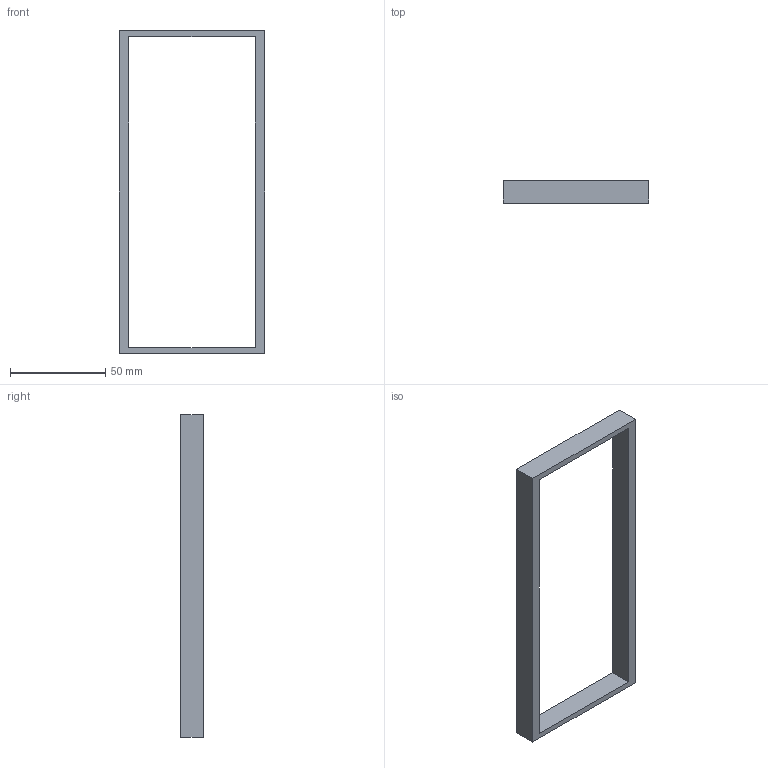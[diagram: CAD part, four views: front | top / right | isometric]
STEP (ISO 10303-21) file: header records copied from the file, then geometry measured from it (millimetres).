
FILE_DESCRIPTION(('FreeCAD Model'),'2;1');
FILE_NAME('Open CASCADE Shape Model','2026-09-11T23:31:28',('FreeCAD'),( 'FreeCAD'),'Open CASCADE STEP processor 7.8','FreeCAD','Unknown');
FILE_SCHEMA(('AUTOMOTIVE_DESIGN { 1 0 10303 214 1 1 1 1 }'));
Length unit declared in the file: millimetre
Products named in the file (1): Open CASCADE STEP translator 7.8 14
Bounding box: 76.4 x 12 x 169.8 mm (x, y, z)
Volume: 25316.2 mm3; surface area: 15648.2 mm2
Topology: 1 solids, 1 shells, 10 faces, 24 edges, 16 vertices
Faces by surface type: plane 10
Entity records: 302 total; most frequent: CARTESIAN_POINT 51, ORIENTED_EDGE 48, DIRECTION 46, EDGE_CURVE 24, LINE 24, VECTOR 24, VERTEX_POINT 16, FACE_BOUND 12
